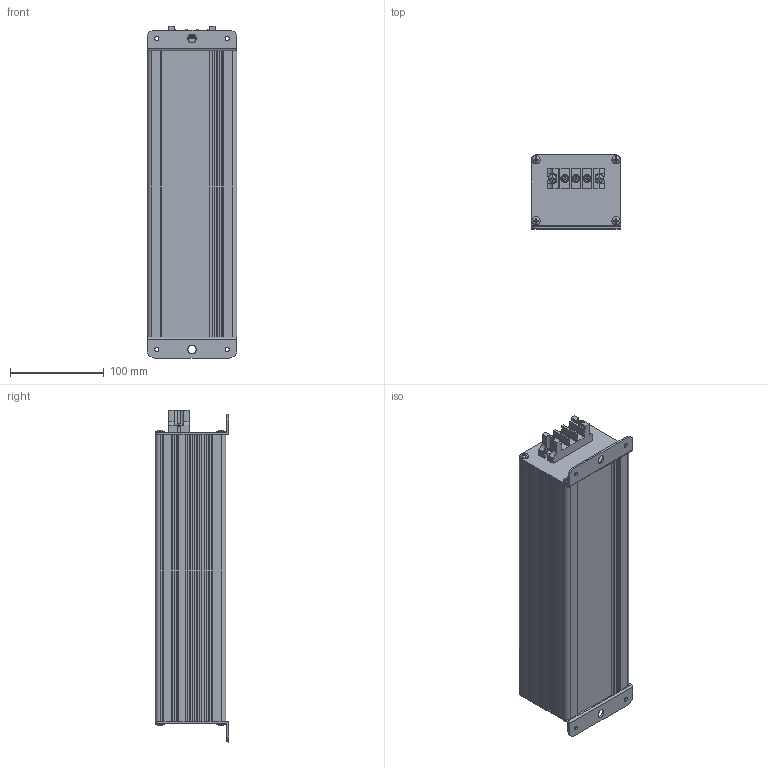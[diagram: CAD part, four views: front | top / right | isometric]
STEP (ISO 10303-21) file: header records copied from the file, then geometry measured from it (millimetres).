
FILE_DESCRIPTION(/* description */ ('','CAx-IF Rec.Pracs.---Representation and Presentation of Product Manufacturing Information (PMI)---4.0---2014-10-13'),/* implementation_level */ '2;1');
FILE_NAME(/* name */ 'H:\04_배터리_전기종\저부하용 배터리 케이스_3D\LB-11V60AH-TB\LB-11V60AH-TB.stp',/* time_stamp */ '2022-12-07T15:12:48+09:00',/* author */ ('jjang'),/* organization */ (''),/* preprocessor_version */ 'ST-DEVELOPER v18.1',/* originating_system */ 'Autodesk Inventor 2021',/* authorisation */ '');
FILE_SCHEMA (('AP242_MANAGED_MODEL_BASED_3D_ENGINEERING_MIM_LF { 1 0 10303 442 1 1 4 }'));
Length unit declared in the file: inch
Products named in the file (1): LB-11V60AH-TB_Shrinkwrap_1
Bounding box: 95.5 x 78.2 x 353.29 mm (x, y, z)
Volume: 346326.7 mm3; surface area: 276913.4 mm2
Topology: 1 solids, 1 shells, 655 faces, 1933 edges, 1296 vertices
Faces by surface type: plane 426, cylinder 204, torus 15, bspline 10
Full cylindrical faces by diameter (mm): 3.8 x10, 4 x8, 4.4 x4, 4.5 x8, 7.084 x3, 7.8 x3, 8.8 x10, 9 x2
Entity records: 23963 total; most frequent: CARTESIAN_POINT 5822, ORIENTED_EDGE 3866, DIRECTION 3630, EDGE_CURVE 1933, VERTEX_POINT 1296, AXIS2_PLACEMENT_3D 1242, LINE 1146, VECTOR 1146
